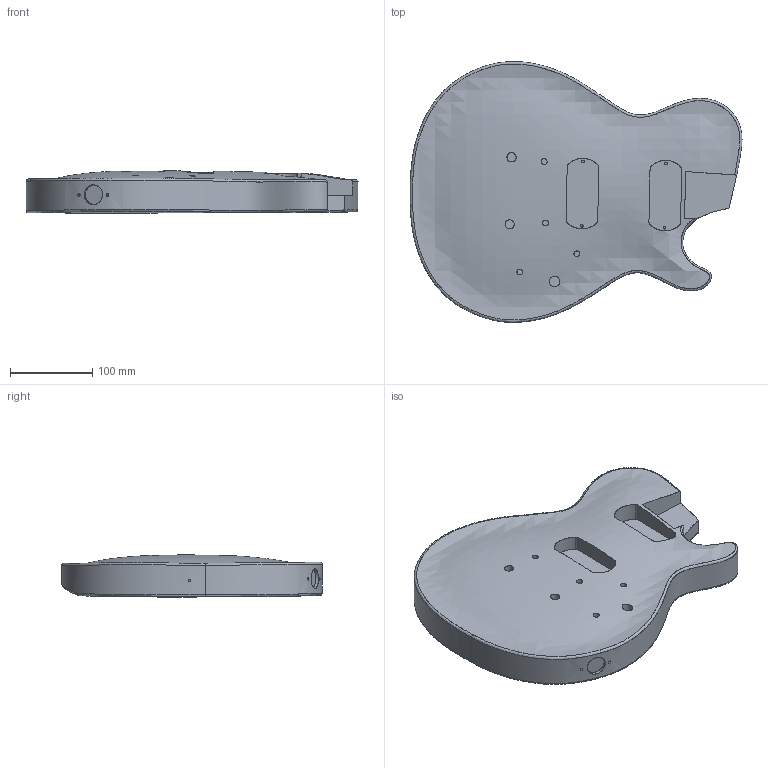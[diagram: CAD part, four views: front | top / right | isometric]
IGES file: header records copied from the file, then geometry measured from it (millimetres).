
Global section: file name: GUITAR.MC9; native system: MASTERCAM; preprocessor: 1; date: 061008.081134; units: inch
Bounding box: 403.72 x 317.03 x 51.17 mm (x, y, z)
Surface area: 493252.1 mm2 (no closed solid volume)
Topology: 0 solids, 0 shells, 126 faces, 18748 edges, 18748 vertices
Faces by surface type: bspline 126
